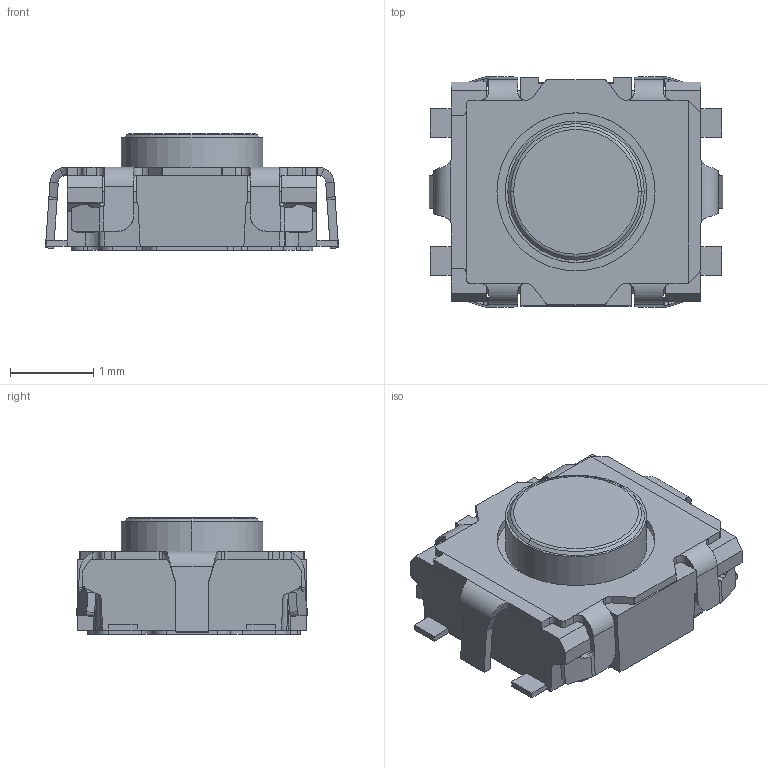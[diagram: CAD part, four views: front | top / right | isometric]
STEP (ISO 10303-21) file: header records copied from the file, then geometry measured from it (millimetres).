
FILE_DESCRIPTION (( 'STEP AP214' ), '1' );
FILE_NAME ('SKSGPC.STEP', '2010-11-29T06:25:09', ( '' ), ( '' ), 'SwSTEP 2.0', 'SolidWorks 2007', '' );
FILE_SCHEMA (( 'AUTOMOTIVE_DESIGN' ));
Length unit declared in the file: millimetre
Products named in the file (1): SKSGPC
Bounding box: 3.52 x 2.77 x 1.4 mm (x, y, z)
Volume: 8.5 mm3; surface area: 37 mm2
Topology: 1 solids, 1 shells, 332 faces, 928 edges, 597 vertices
Faces by surface type: plane 205, cylinder 103, bspline 12, cone 10, torus 2
Entity records: 14516 total; most frequent: CARTESIAN_POINT 2314, ORIENTED_EDGE 1856, DIRECTION 1707, EDGE_CURVE 928, LINE 655, VECTOR 655, VERTEX_POINT 597, AXIS2_PLACEMENT_3D 526
